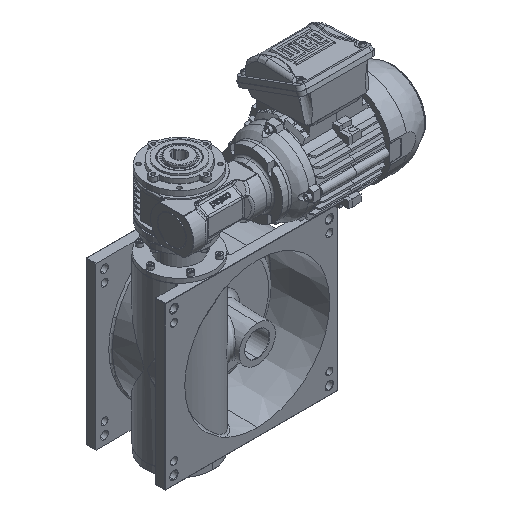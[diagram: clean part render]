
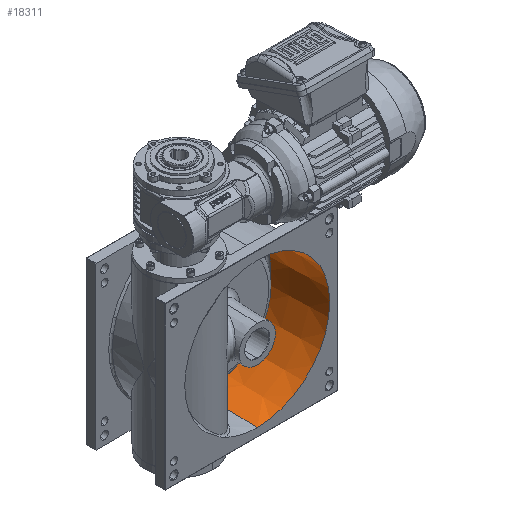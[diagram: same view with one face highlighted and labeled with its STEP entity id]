
A CAD part, isometric view. The second image highlights one B-rep face of the part: STEP entity #18311.
In plain terms, the highlighted conical face has half-angle 2 degrees and reference radius 104.105 mm.
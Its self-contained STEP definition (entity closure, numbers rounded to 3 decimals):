
#6343 = CIRCLE ( 'NONE', #89813, 101.147 ) ;
#10510 = DIRECTION ( 'NONE',  ( 0., 1., 0. ) ) ;
#13706 = CONICAL_SURFACE ( 'NONE', #36130, 104.105, 0.035 ) ;
#15926 = ORIENTED_EDGE ( 'NONE', *, *, #72931, .F. ) ;
#18311 = ADVANCED_FACE ( 'NONE', ( #65926 ), #13706, .F. ) ;
#19731 = DIRECTION ( 'NONE',  ( 0., -0.999, -0.035 ) ) ;
#21184 = CARTESIAN_POINT ( 'NONE',  ( 0., 84.705, -101.147 ) ) ;
#22057 = CARTESIAN_POINT ( 'NONE',  ( 0., 3., 104. ) ) ;
#30382 = VECTOR ( 'NONE', #19731, 1000. ) ;
#32782 = CARTESIAN_POINT ( 'NONE',  ( 0., 3., -104. ) ) ;
#32805 = CARTESIAN_POINT ( 'NONE',  ( 0., 84.705, 101.147 ) ) ;
#36130 = AXIS2_PLACEMENT_3D ( 'NONE', #67820, #90117, #80487 ) ;
#40057 = DIRECTION ( 'NONE',  ( 0., -0.999, 0.035 ) ) ;
#40597 = VERTEX_POINT ( 'NONE', #32782 ) ;
#41046 = DIRECTION ( 'NONE',  ( 0., 1., 0. ) ) ;
#44010 = AXIS2_PLACEMENT_3D ( 'NONE', #97792, #41046, #90098 ) ;
#46219 = EDGE_LOOP ( 'NONE', ( #15926, #106805, #122311, #119161 ) ) ;
#50807 = LINE ( 'NONE', #107615, #96114 ) ;
#53951 = VERTEX_POINT ( 'NONE', #21184 ) ;
#65926 = FACE_OUTER_BOUND ( 'NONE', #46219, .T. ) ;
#67820 = CARTESIAN_POINT ( 'NONE',  ( 0., 0., 0. ) ) ;
#72429 = EDGE_CURVE ( 'NONE', #119100, #53951, #6343, .T. ) ;
#72931 = EDGE_CURVE ( 'NONE', #119100, #75545, #50807, .T. ) ;
#75545 = VERTEX_POINT ( 'NONE', #22057 ) ;
#78868 = CARTESIAN_POINT ( 'NONE',  ( 0., 0., -104.105 ) ) ;
#80487 = DIRECTION ( 'NONE',  ( 0., 0., -1. ) ) ;
#86333 = DIRECTION ( 'NONE',  ( 0., 0., 1. ) ) ;
#89813 = AXIS2_PLACEMENT_3D ( 'NONE', #125872, #10510, #86333 ) ;
#90098 = DIRECTION ( 'NONE',  ( 0., 0., -1. ) ) ;
#90117 = DIRECTION ( 'NONE',  ( 0., -1., 0. ) ) ;
#96114 = VECTOR ( 'NONE', #40057, 1000. ) ;
#97124 = EDGE_CURVE ( 'NONE', #75545, #40597, #109235, .T. ) ;
#97477 = LINE ( 'NONE', #78868, #30382 ) ;
#97792 = CARTESIAN_POINT ( 'NONE',  ( 0., 3., 0. ) ) ;
#101863 = EDGE_CURVE ( 'NONE', #53951, #40597, #97477, .T. ) ;
#106805 = ORIENTED_EDGE ( 'NONE', *, *, #72429, .T. ) ;
#107615 = CARTESIAN_POINT ( 'NONE',  ( 0., 0., 104.105 ) ) ;
#109235 = CIRCLE ( 'NONE', #44010, 104. ) ;
#119100 = VERTEX_POINT ( 'NONE', #32805 ) ;
#119161 = ORIENTED_EDGE ( 'NONE', *, *, #97124, .F. ) ;
#122311 = ORIENTED_EDGE ( 'NONE', *, *, #101863, .T. ) ;
#125872 = CARTESIAN_POINT ( 'NONE',  ( 0., 84.705, 0. ) ) ;
